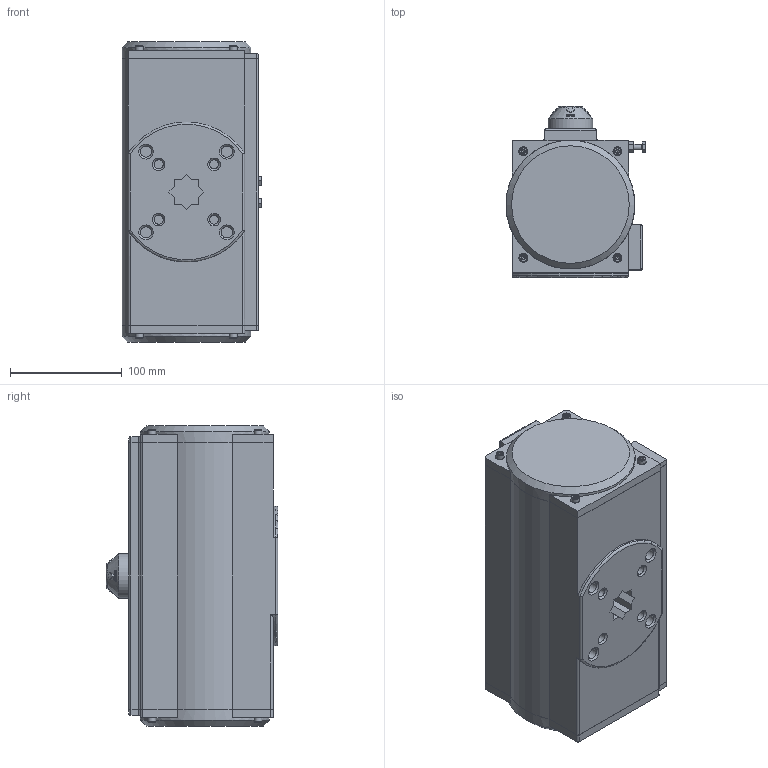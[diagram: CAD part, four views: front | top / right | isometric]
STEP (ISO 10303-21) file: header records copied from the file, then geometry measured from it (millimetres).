
FILE_DESCRIPTION(('STEP AP242'), '1');
FILE_NAME('PA-DA-105 砅槻斁瀔魤鍱 DN.ru', '2026-04-17T19:44:38', ('DN.ru'), (''), 'C3D Converter', 'C3D Toolkit', '');
FILE_SCHEMA(('AP242_MANAGED_MODEL_BASED_3D_ENGINEERING_MIM_LF { 1 0 10303 442 1 1 4 }'));
Length unit declared in the file: millimetre
Products named in the file (1): PA-DA-105
Bounding box: 125 x 153 x 268 mm (x, y, z)
Volume: 3623125.8 mm3; surface area: 216692.1 mm2
Topology: 1 solids, 4 shells, 1016 faces, 2648 edges, 1726 vertices
Faces by surface type: plane 451, extrusion 345, cylinder 113, cone 91, torus 16
Full cylindrical faces by diameter (mm): 3 x8, 4 x8, 4.724 x2, 5 x12, 7 x8, 8 x21, 10 x4, 40 x1, 50 x2, 115 x2
Entity records: 54861 total; most frequent: CARTESIAN_POINT 24203, ORIENTED_EDGE 4982, DIRECTION 3428, EDGE_CURVE 2491, VERTEX_POINT 1702, B_SPLINE_CURVE_WITH_KNOTS 1429, VECTOR 1404, EDGE_LOOP 1255
